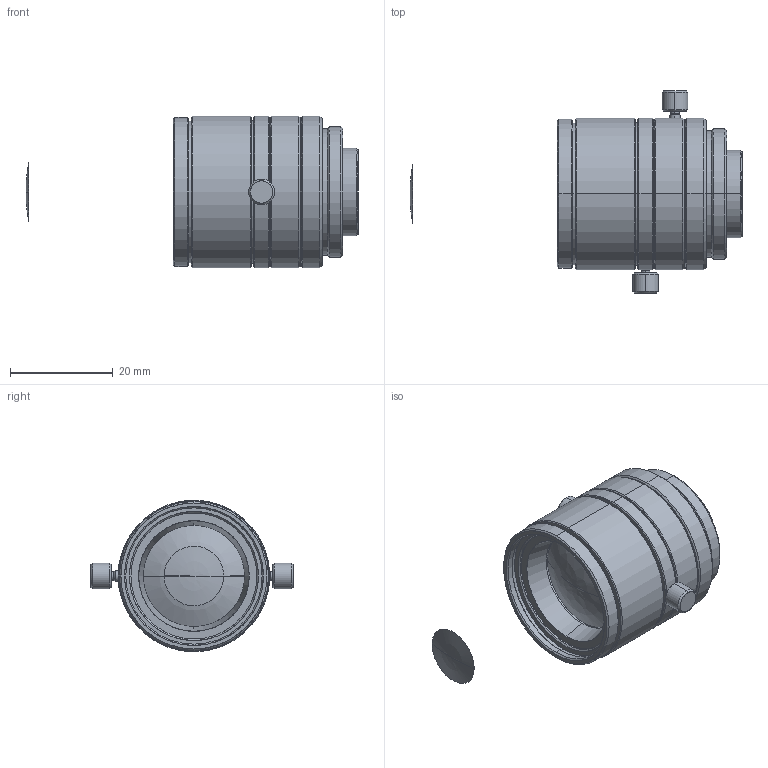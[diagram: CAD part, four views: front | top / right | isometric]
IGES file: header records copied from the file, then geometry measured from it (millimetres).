
Start section: SolidWorks IGES file using analytic representation for surfaces
Global section: file name: C:\Users\tsuji_vst\Documents\【図面】\_3D\00 VST\VS-VM\VS-2518VM.IGS; native system: SolidWorks 2016; preprocessor: SolidWorks 2016; author: tsuji_vst; date: 160510.090429; units: millimetre
Bounding box: 64.57 x 39.35 x 29.5 mm (x, y, z)
Surface area: 6140.4 mm2 (no closed solid volume)
Topology: 0 solids, 0 shells, 124 faces, 2268 edges, 2266 vertices
Faces by surface type: revolution 104, bspline 20
